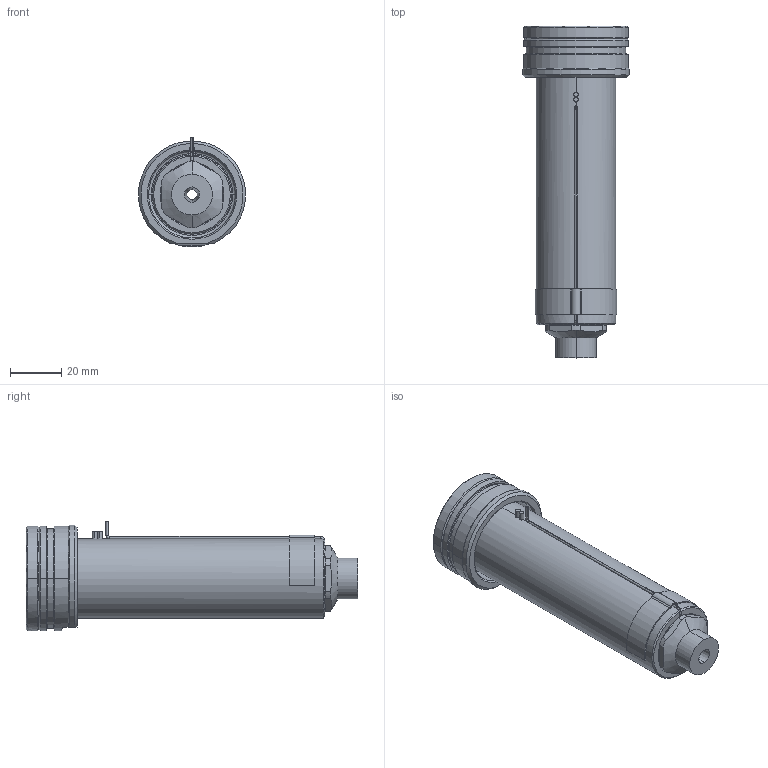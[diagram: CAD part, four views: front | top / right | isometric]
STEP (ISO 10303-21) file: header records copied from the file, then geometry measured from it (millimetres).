
FILE_DESCRIPTION((''),'2;1');
FILE_NAME('EO12_VG-ST_STD_110_SW','2024-02-19T12:50:32',('sundharh'),(''),'CREO PARAMETRIC BY PTC INC, 2023154','CREO PARAMETRIC BY PTC INC, 2023154','');
FILE_SCHEMA(('CONFIG_CONTROL_DESIGN'));
Length unit declared in the file: millimetre
Products named in the file (1): EO12_VG-ST_STD_110_SW
Bounding box: 41.85 x 130 x 43 mm (x, y, z)
Volume: 87675.4 mm3; surface area: 24253.3 mm2
Topology: 2 solids, 3 shells, 182 faces, 463 edges, 284 vertices
Faces by surface type: cylinder 65, plane 46, cone 37, torus 27, bspline 5, sphere 2
Entity records: 6269 total; most frequent: CARTESIAN_POINT 1762, DIRECTION 994, ORIENTED_EDGE 922, EDGE_CURVE 461, AXIS2_PLACEMENT_3D 415, VERTEX_POINT 284, CIRCLE 238, EDGE_LOOP 197
